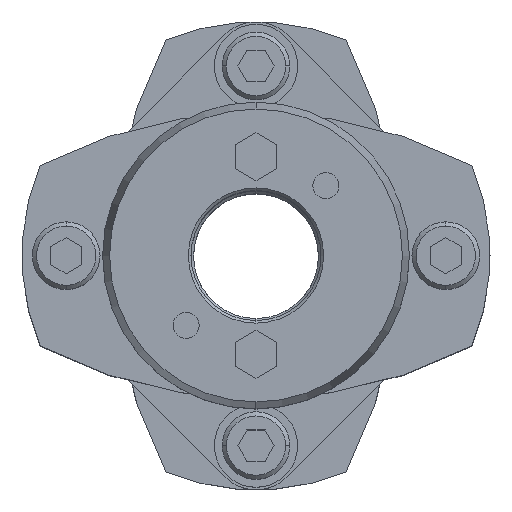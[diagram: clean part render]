
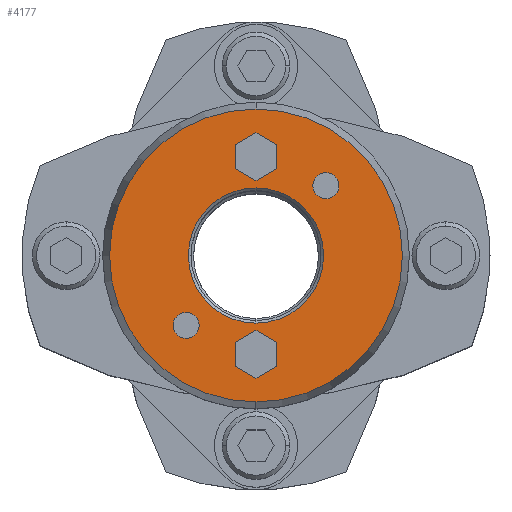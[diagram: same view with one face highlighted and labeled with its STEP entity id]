
A CAD part, top view. The second image highlights one B-rep face of the part: STEP entity #4177.
In plain terms, the highlighted planar face has unit normal (0, 0, 1).
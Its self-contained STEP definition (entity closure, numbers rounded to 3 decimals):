
#2291=CARTESIAN_POINT('',(0.,13.,52.0));
#2292=VERTEX_POINT('',#2291);
#2308=CARTESIAN_POINT('',(0.,-13.,52.0));
#2309=VERTEX_POINT('',#2308);
#2316=CARTESIAN_POINT('',(0.,0.,52.0));
#2317=DIRECTION('',(0.0,0.0,1.0));
#2318=DIRECTION('',(0.0,1.0,0.0));
#2319=AXIS2_PLACEMENT_3D('',#2316,#2317,#2318);
#2320=CIRCLE('',#2319,13.0);
#2321=EDGE_CURVE('',#2309,#2292,#2320,.T.);
#2479=CARTESIAN_POINT('',(0.,-28.16,52.0));
#2480=VERTEX_POINT('',#2479);
#2487=CARTESIAN_POINT('',(0.,28.16,52.0));
#2488=VERTEX_POINT('',#2487);
#2489=CARTESIAN_POINT('',(0.,0.,52.0));
#2490=DIRECTION('',(0.0,0.0,-1.0));
#2491=DIRECTION('',(0.0,-1.0,0.0));
#2492=AXIS2_PLACEMENT_3D('',#2489,#2490,#2491);
#2493=CIRCLE('',#2492,28.16);
#2494=EDGE_CURVE('',#2480,#2488,#2493,.T.);
#2737=CARTESIAN_POINT('',(-13.435,-10.935,52.0));
#2738=VERTEX_POINT('',#2737);
#2754=CARTESIAN_POINT('',(-13.435,-15.935,52.0));
#2755=VERTEX_POINT('',#2754);
#2762=CARTESIAN_POINT('',(-13.435,-13.435,52.0));
#2763=DIRECTION('',(0.0,0.0,-1.0));
#2764=DIRECTION('',(0.0,1.0,0.0));
#2765=AXIS2_PLACEMENT_3D('',#2762,#2763,#2764);
#2766=CIRCLE('',#2765,2.5);
#2767=EDGE_CURVE('',#2738,#2755,#2766,.T.);
#2779=CARTESIAN_POINT('',(13.435,15.935,52.0));
#2780=VERTEX_POINT('',#2779);
#2796=CARTESIAN_POINT('',(13.435,10.935,52.0));
#2797=VERTEX_POINT('',#2796);
#2804=CARTESIAN_POINT('',(13.435,13.435,52.0));
#2805=DIRECTION('',(0.0,0.0,-1.0));
#2806=DIRECTION('',(0.0,1.0,0.0));
#2807=AXIS2_PLACEMENT_3D('',#2804,#2805,#2806);
#2808=CIRCLE('',#2807,2.5);
#2809=EDGE_CURVE('',#2780,#2797,#2808,.T.);
#2892=CARTESIAN_POINT('',(13.435,13.435,52.0));
#2893=DIRECTION('',(0.0,0.0,-1.0));
#2894=DIRECTION('',(0.0,1.0,0.0));
#2895=AXIS2_PLACEMENT_3D('',#2892,#2893,#2894);
#2896=CIRCLE('',#2895,2.5);
#2897=EDGE_CURVE('',#2797,#2780,#2896,.T.);
#2926=CARTESIAN_POINT('',(-13.435,-13.435,52.0));
#2927=DIRECTION('',(0.0,0.0,-1.0));
#2928=DIRECTION('',(0.0,1.0,0.0));
#2929=AXIS2_PLACEMENT_3D('',#2926,#2927,#2928);
#2930=CIRCLE('',#2929,2.5);
#2931=EDGE_CURVE('',#2755,#2738,#2930,.T.);
#2969=CARTESIAN_POINT('',(0.,23.619,52.0));
#2970=VERTEX_POINT('',#2969);
#2977=CARTESIAN_POINT('',(-4.,21.309,52.0));
#2978=VERTEX_POINT('',#2977);
#2979=CARTESIAN_POINT('',(-4.,21.309,52.0));
#2980=DIRECTION('',(0.866,0.5,0.0));
#2981=VECTOR('',#2980,4.619);
#2982=LINE('',#2979,#2981);
#2983=EDGE_CURVE('',#2978,#2970,#2982,.T.);
#3007=CARTESIAN_POINT('',(4.,21.309,52.0));
#3008=VERTEX_POINT('',#3007);
#3015=CARTESIAN_POINT('',(0.,23.619,52.0));
#3016=DIRECTION('',(0.866,-0.5,0.0));
#3017=VECTOR('',#3016,4.619);
#3018=LINE('',#3015,#3017);
#3019=EDGE_CURVE('',#2970,#3008,#3018,.T.);
#3038=CARTESIAN_POINT('',(4.,16.691,52.0));
#3039=VERTEX_POINT('',#3038);
#3046=CARTESIAN_POINT('',(4.,21.309,52.0));
#3047=DIRECTION('',(0.0,-1.0,0.0));
#3048=VECTOR('',#3047,4.619);
#3049=LINE('',#3046,#3048);
#3050=EDGE_CURVE('',#3008,#3039,#3049,.T.);
#3069=CARTESIAN_POINT('',(0.,14.381,52.0));
#3070=VERTEX_POINT('',#3069);
#3077=CARTESIAN_POINT('',(4.,16.691,52.0));
#3078=DIRECTION('',(-0.866,-0.5,0.0));
#3079=VECTOR('',#3078,4.619);
#3080=LINE('',#3077,#3079);
#3081=EDGE_CURVE('',#3039,#3070,#3080,.T.);
#3100=CARTESIAN_POINT('',(-4.,16.691,52.0));
#3101=VERTEX_POINT('',#3100);
#3108=CARTESIAN_POINT('',(0.,14.381,52.0));
#3109=DIRECTION('',(-0.866,0.5,0.0));
#3110=VECTOR('',#3109,4.619);
#3111=LINE('',#3108,#3110);
#3112=EDGE_CURVE('',#3070,#3101,#3111,.T.);
#3130=CARTESIAN_POINT('',(-4.,16.691,52.0));
#3131=DIRECTION('',(0.0,1.0,0.0));
#3132=VECTOR('',#3131,4.619);
#3133=LINE('',#3130,#3132);
#3134=EDGE_CURVE('',#3101,#2978,#3133,.T.);
#3169=CARTESIAN_POINT('',(0.,-14.381,52.0));
#3170=VERTEX_POINT('',#3169);
#3177=CARTESIAN_POINT('',(-4.,-16.691,52.0));
#3178=VERTEX_POINT('',#3177);
#3179=CARTESIAN_POINT('',(-4.,-16.691,52.0));
#3180=DIRECTION('',(0.866,0.5,0.0));
#3181=VECTOR('',#3180,4.619);
#3182=LINE('',#3179,#3181);
#3183=EDGE_CURVE('',#3178,#3170,#3182,.T.);
#3207=CARTESIAN_POINT('',(4.,-16.691,52.0));
#3208=VERTEX_POINT('',#3207);
#3215=CARTESIAN_POINT('',(0.,-14.381,52.0));
#3216=DIRECTION('',(0.866,-0.5,0.0));
#3217=VECTOR('',#3216,4.619);
#3218=LINE('',#3215,#3217);
#3219=EDGE_CURVE('',#3170,#3208,#3218,.T.);
#3238=CARTESIAN_POINT('',(4.,-21.309,52.0));
#3239=VERTEX_POINT('',#3238);
#3246=CARTESIAN_POINT('',(4.,-16.691,52.0));
#3247=DIRECTION('',(0.0,-1.0,0.0));
#3248=VECTOR('',#3247,4.619);
#3249=LINE('',#3246,#3248);
#3250=EDGE_CURVE('',#3208,#3239,#3249,.T.);
#3269=CARTESIAN_POINT('',(0.,-23.619,52.0));
#3270=VERTEX_POINT('',#3269);
#3277=CARTESIAN_POINT('',(4.,-21.309,52.0));
#3278=DIRECTION('',(-0.866,-0.5,0.0));
#3279=VECTOR('',#3278,4.619);
#3280=LINE('',#3277,#3279);
#3281=EDGE_CURVE('',#3239,#3270,#3280,.T.);
#3300=CARTESIAN_POINT('',(-4.,-21.309,52.0));
#3301=VERTEX_POINT('',#3300);
#3308=CARTESIAN_POINT('',(0.,-23.619,52.0));
#3309=DIRECTION('',(-0.866,0.5,0.0));
#3310=VECTOR('',#3309,4.619);
#3311=LINE('',#3308,#3310);
#3312=EDGE_CURVE('',#3270,#3301,#3311,.T.);
#3330=CARTESIAN_POINT('',(-4.,-21.309,52.0));
#3331=DIRECTION('',(0.0,1.0,0.0));
#3332=VECTOR('',#3331,4.619);
#3333=LINE('',#3330,#3332);
#3334=EDGE_CURVE('',#3301,#3178,#3333,.T.);
#4124=CARTESIAN_POINT('',(0.,0.,52.0));
#4125=DIRECTION('',(0.0,0.0,-1.0));
#4126=DIRECTION('',(0.0,-1.0,0.0));
#4127=AXIS2_PLACEMENT_3D('',#4124,#4125,#4126);
#4128=CIRCLE('',#4127,28.16);
#4129=EDGE_CURVE('',#2488,#2480,#4128,.T.);
#4134=CARTESIAN_POINT('',(0.,2.682,52.0));
#4135=DIRECTION('',(0.0,0.0,1.0));
#4136=DIRECTION('',(0.0,1.0,0.0));
#4137=AXIS2_PLACEMENT_3D('',#4134,#4135,#4136);
#4138=PLANE('',#4137);
#4139=ORIENTED_EDGE('',*,*,#4129,.F.);
#4140=ORIENTED_EDGE('',*,*,#2494,.F.);
#4141=EDGE_LOOP('',(#4139,#4140));
#4142=FACE_OUTER_BOUND('',#4141,.T.);
#4143=ORIENTED_EDGE('',*,*,#2809,.T.);
#4144=ORIENTED_EDGE('',*,*,#2897,.T.);
#4145=EDGE_LOOP('',(#4143,#4144));
#4146=FACE_BOUND('',#4145,.T.);
#4147=ORIENTED_EDGE('',*,*,#2767,.T.);
#4148=ORIENTED_EDGE('',*,*,#2931,.T.);
#4149=EDGE_LOOP('',(#4147,#4148));
#4150=FACE_BOUND('',#4149,.T.);
#4151=ORIENTED_EDGE('',*,*,#2983,.T.);
#4152=ORIENTED_EDGE('',*,*,#3019,.T.);
#4153=ORIENTED_EDGE('',*,*,#3050,.T.);
#4154=ORIENTED_EDGE('',*,*,#3081,.T.);
#4155=ORIENTED_EDGE('',*,*,#3112,.T.);
#4156=ORIENTED_EDGE('',*,*,#3134,.T.);
#4157=EDGE_LOOP('',(#4151,#4152,#4153,#4154,#4155,#4156));
#4158=FACE_BOUND('',#4157,.T.);
#4159=ORIENTED_EDGE('',*,*,#3183,.T.);
#4160=ORIENTED_EDGE('',*,*,#3219,.T.);
#4161=ORIENTED_EDGE('',*,*,#3250,.T.);
#4162=ORIENTED_EDGE('',*,*,#3281,.T.);
#4163=ORIENTED_EDGE('',*,*,#3312,.T.);
#4164=ORIENTED_EDGE('',*,*,#3334,.T.);
#4165=EDGE_LOOP('',(#4159,#4160,#4161,#4162,#4163,#4164));
#4166=FACE_BOUND('',#4165,.T.);
#4167=ORIENTED_EDGE('',*,*,#2321,.F.);
#4168=CARTESIAN_POINT('',(0.,0.,52.0));
#4169=DIRECTION('',(0.0,0.0,1.0));
#4170=DIRECTION('',(0.0,1.0,0.0));
#4171=AXIS2_PLACEMENT_3D('',#4168,#4169,#4170);
#4172=CIRCLE('',#4171,13.0);
#4173=EDGE_CURVE('',#2292,#2309,#4172,.T.);
#4174=ORIENTED_EDGE('',*,*,#4173,.F.);
#4175=EDGE_LOOP('',(#4167,#4174));
#4176=FACE_BOUND('',#4175,.T.);
#4177=ADVANCED_FACE('',(#4142,#4146,#4150,#4158,#4166,#4176),#4138,.T.);
